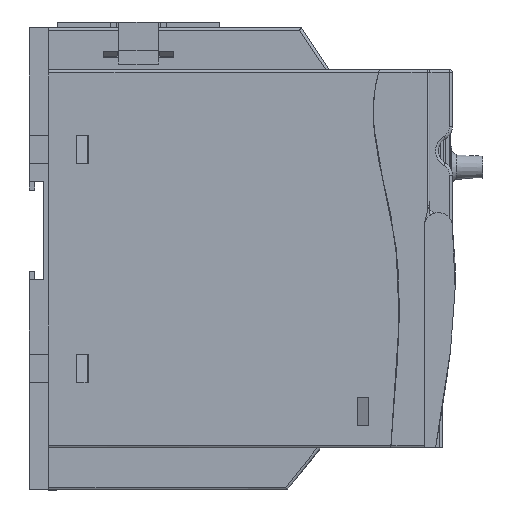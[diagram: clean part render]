
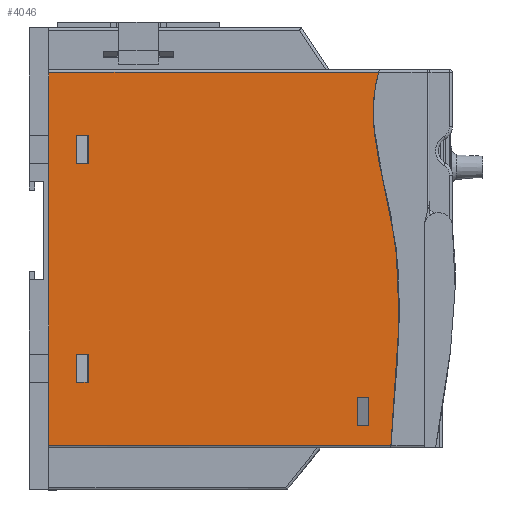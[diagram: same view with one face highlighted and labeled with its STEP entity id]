
A CAD part, front view. The second image highlights one B-rep face of the part: STEP entity #4046.
In plain terms, the highlighted planar face has unit normal (0, -1, 0) as drawn and (1, 0, 0) by its records, which use the part's own axes.
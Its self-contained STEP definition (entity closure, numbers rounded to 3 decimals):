
#4046=ADVANCED_FACE('',(#10260,#10262,#10264,#10266),#10268,.T.);
#10260=FACE_BOUND('',#10261,.T.);
#10261=EDGE_LOOP('',(#17514,#17515,#17516,#17517));
#10262=FACE_BOUND('',#10263,.T.);
#10263=EDGE_LOOP('',(#17518,#17519,#17520,#17521));
#10264=FACE_BOUND('',#10265,.T.);
#10265=EDGE_LOOP('',(#17522,#17523,#17524,#17525));
#10266=FACE_BOUND('',#10267,.T.);
#10267=EDGE_LOOP('',(#17526,#17527,#17528,#17529));
#10268=PLANE('',#10269);
#10269=AXIS2_PLACEMENT_3D('',#10270,#10271,#10272);
#10270=CARTESIAN_POINT('',(105.,0.,0.));
#10271=DIRECTION('',(1.,0.,0.));
#10272=DIRECTION('',(0.,1.,0.));
#17514=ORIENTED_EDGE('',*,*,#21556,.T.);
#17515=ORIENTED_EDGE('',*,*,#21453,.T.);
#17516=ORIENTED_EDGE('',*,*,#21815,.T.);
#17517=ORIENTED_EDGE('',*,*,#21526,.T.);
#17518=ORIENTED_EDGE('',*,*,#21633,.T.);
#17519=ORIENTED_EDGE('',*,*,#21640,.T.);
#17520=ORIENTED_EDGE('',*,*,#21638,.T.);
#17521=ORIENTED_EDGE('',*,*,#21636,.T.);
#17522=ORIENTED_EDGE('',*,*,#21625,.T.);
#17523=ORIENTED_EDGE('',*,*,#21632,.T.);
#17524=ORIENTED_EDGE('',*,*,#21630,.T.);
#17525=ORIENTED_EDGE('',*,*,#21628,.T.);
#17526=ORIENTED_EDGE('',*,*,#21617,.T.);
#17527=ORIENTED_EDGE('',*,*,#21624,.T.);
#17528=ORIENTED_EDGE('',*,*,#21622,.T.);
#17529=ORIENTED_EDGE('',*,*,#21620,.T.);
#21453=EDGE_CURVE('',#25841,#25839,#25842,.T.);
#21526=EDGE_CURVE('',#25979,#25977,#25980,.T.);
#21556=EDGE_CURVE('',#25977,#25841,#26035,.T.);
#21617=EDGE_CURVE('',#26142,#26143,#26144,.F.);
#21620=EDGE_CURVE('',#26147,#26142,#26148,.F.);
#21622=EDGE_CURVE('',#26150,#26147,#26151,.F.);
#21624=EDGE_CURVE('',#26143,#26150,#26153,.F.);
#21625=EDGE_CURVE('',#26154,#26155,#26156,.F.);
#21628=EDGE_CURVE('',#26159,#26154,#26160,.F.);
#21630=EDGE_CURVE('',#26162,#26159,#26163,.F.);
#21632=EDGE_CURVE('',#26155,#26162,#26165,.F.);
#21633=EDGE_CURVE('',#26166,#26167,#26168,.F.);
#21636=EDGE_CURVE('',#26171,#26166,#26172,.F.);
#21638=EDGE_CURVE('',#26174,#26171,#26175,.F.);
#21640=EDGE_CURVE('',#26167,#26174,#26177,.F.);
#21815=EDGE_CURVE('',#25839,#25979,#26513,.T.);
#25839=VERTEX_POINT('',#35915);
#25841=VERTEX_POINT('',#35920);
#25842=LINE('',#35921,#35922);
#25977=VERTEX_POINT('',#36231);
#25979=VERTEX_POINT('',#36247);
#25980=B_SPLINE_CURVE_WITH_KNOTS('',3,
(#36248,#36249,#36250,#36251,#36252),
.UNSPECIFIED.,.F.,.F.,
(4,1,4),
(0.,0.585,1.),
.UNSPECIFIED.);
#26035=LINE('',#36412,#36413);
#26142=VERTEX_POINT('',#36658);
#26143=VERTEX_POINT('',#36659);
#26144=LINE('',#36660,#36661);
#26147=VERTEX_POINT('',#36669);
#26148=LINE('',#36670,#36671);
#26150=VERTEX_POINT('',#36676);
#26151=LINE('',#36677,#36678);
#26153=LINE('',#36683,#36684);
#26154=VERTEX_POINT('',#36686);
#26155=VERTEX_POINT('',#36687);
#26156=LINE('',#36688,#36689);
#26159=VERTEX_POINT('',#36697);
#26160=LINE('',#36698,#36699);
#26162=VERTEX_POINT('',#36704);
#26163=LINE('',#36705,#36706);
#26165=LINE('',#36711,#36712);
#26166=VERTEX_POINT('',#36714);
#26167=VERTEX_POINT('',#36715);
#26168=LINE('',#36716,#36717);
#26171=VERTEX_POINT('',#36725);
#26172=LINE('',#36726,#36727);
#26174=VERTEX_POINT('',#36732);
#26175=LINE('',#36733,#36734);
#26177=LINE('',#36739,#36740);
#26513=LINE('',#37496,#37497);
#35915=CARTESIAN_POINT('',(105.,-122.,1.));
#35920=CARTESIAN_POINT('',(105.,-122.,134.));
#35921=CARTESIAN_POINT('',(105.,-122.,134.));
#35922=VECTOR('',#35923,1.);
#35923=DIRECTION('',(0.,0.,-1.));
#36231=CARTESIAN_POINT('',(105.,-4.303,134.));
#36247=CARTESIAN_POINT('',(105.,0.071,1.));
#36248=CARTESIAN_POINT('',(105.,0.071,1.));
#36249=CARTESIAN_POINT('',(105.,1.924,26.726));
#36250=CARTESIAN_POINT('',(105.,7.817,72.322));
#36251=CARTESIAN_POINT('',(105.,-9.736,115.328));
#36252=CARTESIAN_POINT('',(105.,-4.303,134.));
#36412=CARTESIAN_POINT('',(105.,-4.303,134.));
#36413=VECTOR('',#36414,1.);
#36414=DIRECTION('',(0.,-1.,0.));
#36658=CARTESIAN_POINT('',(105.,-8.,18.));
#36659=CARTESIAN_POINT('',(105.,-8.,8.));
#36660=CARTESIAN_POINT('',(105.,-8.,8.));
#36661=VECTOR('',#36662,1.);
#36662=DIRECTION('',(0.,0.,1.));
#36669=CARTESIAN_POINT('',(105.,-12.,18.));
#36670=CARTESIAN_POINT('',(105.,-8.,18.));
#36671=VECTOR('',#36672,1.);
#36672=DIRECTION('',(0.,-1.,0.));
#36676=CARTESIAN_POINT('',(105.,-12.,8.));
#36677=CARTESIAN_POINT('',(105.,-12.,18.));
#36678=VECTOR('',#36679,1.);
#36679=DIRECTION('',(0.,0.,-1.));
#36683=CARTESIAN_POINT('',(105.,-12.,8.));
#36684=VECTOR('',#36685,1.);
#36685=DIRECTION('',(0.,1.,0.));
#36686=CARTESIAN_POINT('',(105.,-112.,101.5));
#36687=CARTESIAN_POINT('',(105.,-112.,111.5));
#36688=CARTESIAN_POINT('',(105.,-112.,111.5));
#36689=VECTOR('',#36690,1.);
#36690=DIRECTION('',(0.,0.,-1.));
#36697=CARTESIAN_POINT('',(105.,-108.,101.5));
#36698=CARTESIAN_POINT('',(105.,-112.,101.5));
#36699=VECTOR('',#36700,1.);
#36700=DIRECTION('',(0.,1.,0.));
#36704=CARTESIAN_POINT('',(105.,-108.,111.5));
#36705=CARTESIAN_POINT('',(105.,-108.,101.5));
#36706=VECTOR('',#36707,1.);
#36707=DIRECTION('',(0.,0.,1.));
#36711=CARTESIAN_POINT('',(105.,-108.,111.5));
#36712=VECTOR('',#36713,1.);
#36713=DIRECTION('',(0.,-1.,0.));
#36714=CARTESIAN_POINT('',(105.,-112.,23.5));
#36715=CARTESIAN_POINT('',(105.,-112.,33.5));
#36716=CARTESIAN_POINT('',(105.,-112.,33.5));
#36717=VECTOR('',#36718,1.);
#36718=DIRECTION('',(0.,0.,-1.));
#36725=CARTESIAN_POINT('',(105.,-108.,23.5));
#36726=CARTESIAN_POINT('',(105.,-112.,23.5));
#36727=VECTOR('',#36728,1.);
#36728=DIRECTION('',(0.,1.,0.));
#36732=CARTESIAN_POINT('',(105.,-108.,33.5));
#36733=CARTESIAN_POINT('',(105.,-108.,23.5));
#36734=VECTOR('',#36735,1.);
#36735=DIRECTION('',(0.,0.,1.));
#36739=CARTESIAN_POINT('',(105.,-108.,33.5));
#36740=VECTOR('',#36741,1.);
#36741=DIRECTION('',(0.,-1.,0.));
#37496=CARTESIAN_POINT('',(105.,-122.,1.));
#37497=VECTOR('',#37498,1.);
#37498=DIRECTION('',(0.,1.,0.));
